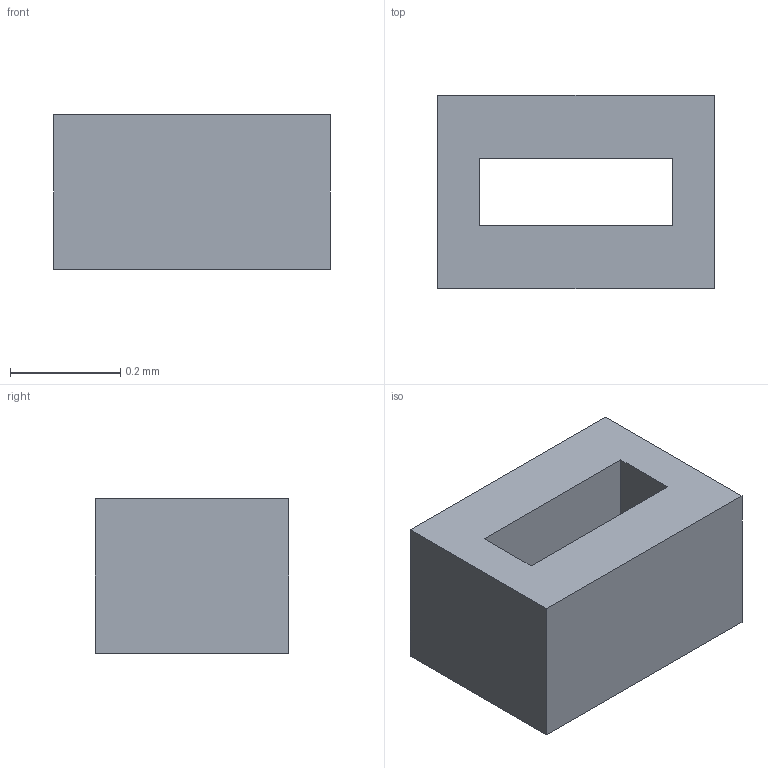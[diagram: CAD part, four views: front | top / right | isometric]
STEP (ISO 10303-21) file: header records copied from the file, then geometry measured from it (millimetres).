
FILE_DESCRIPTION(('Open CASCADE Model'),'2;1');
FILE_NAME('Open CASCADE Shape Model','2026-09-15T23:57:53',('Author'),( 'Open CASCADE'),'Open CASCADE STEP processor 7.9','Open CASCADE 7.9' ,'Unknown');
FILE_SCHEMA(('AUTOMOTIVE_DESIGN { 1 0 10303 214 1 1 1 1 }'));
Length unit declared in the file: millimetre
Products named in the file (1): Open CASCADE STEP translator 7.9 9
Bounding box: 0.5 x 0.35 x 0.28 mm (x, y, z)
Volume: 0 mm3; surface area: 1 mm2
Topology: 1 solids, 1 shells, 10 faces, 24 edges, 16 vertices
Faces by surface type: plane 10
Entity records: 598 total; most frequent: CARTESIAN_POINT 115, DIRECTION 78, LINE 56, VECTOR 56, ORIENTED_EDGE 48, PCURVE 48, DEFINITIONAL_REPRESENTATION 48, EDGE_CURVE 24
